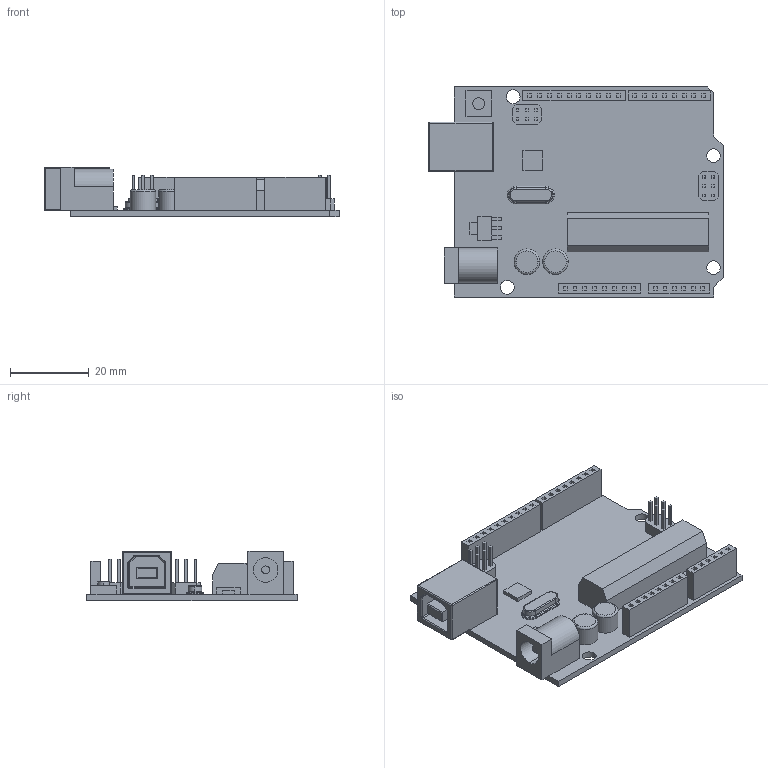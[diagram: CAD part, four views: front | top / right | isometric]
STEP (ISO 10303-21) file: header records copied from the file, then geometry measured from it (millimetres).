
FILE_DESCRIPTION (( 'STEP AP214' ), '1' );
FILE_NAME ('Arduino_Uno.STEP', '2026-08-23T20:29:42', ( '' ), ( '' ), 'SwSTEP 2.0', 'SolidWorks 2026', '' );
FILE_SCHEMA (( 'AUTOMOTIVE_DESIGN' ));
Length unit declared in the file: millimetre
Products named in the file (1): Arduino_Uno
Bounding box: 75 x 53.5 x 12.6 mm (x, y, z)
Volume: 13511.4 mm3; surface area: 13633.2 mm2
Topology: 1 solids, 1 shells, 431 faces, 1042 edges, 667 vertices
Faces by surface type: plane 346, cylinder 58, torus 19, sphere 8
Entity records: 12322 total; most frequent: CARTESIAN_POINT 2154, ORIENTED_EDGE 2068, DIRECTION 2022, EDGE_CURVE 1034, VECTOR 896, LINE 896, VERTEX_POINT 667, AXIS2_PLACEMENT_3D 563
